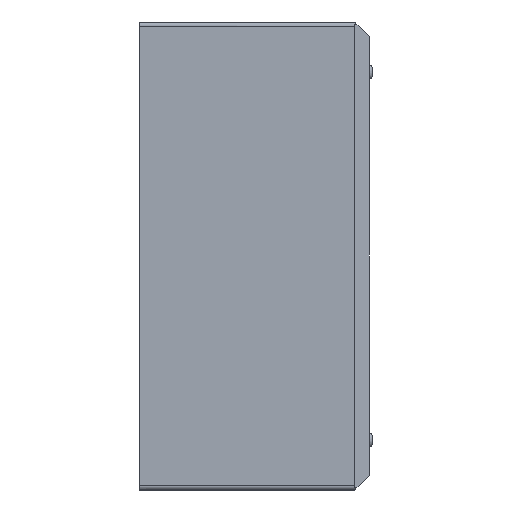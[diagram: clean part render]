
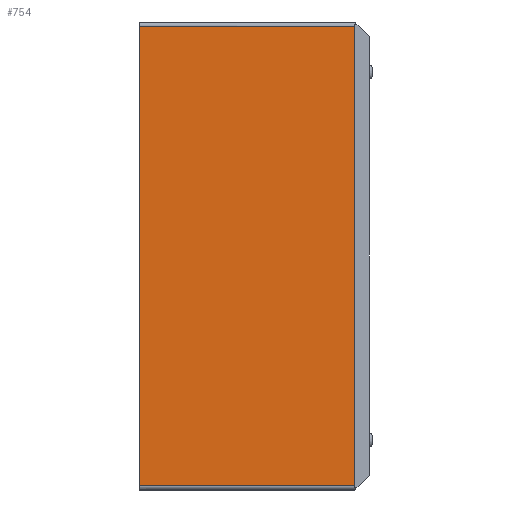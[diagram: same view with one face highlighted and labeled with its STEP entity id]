
A CAD part, left-side view. The second image highlights one B-rep face of the part: STEP entity #754.
In plain terms, the highlighted planar face has unit normal (-1, 0, 0).
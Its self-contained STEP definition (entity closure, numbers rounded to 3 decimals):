
#38 = VERTEX_POINT ( 'NONE', #1318 ) ;
#65 = VECTOR ( 'NONE', #2334, 1000. ) ;
#326 = DIRECTION ( 'NONE',  ( 0., 1., 0. ) ) ;
#478 = ORIENTED_EDGE ( 'NONE', *, *, #1088, .T. ) ;
#557 = FACE_OUTER_BOUND ( 'NONE', #1667, .T. ) ;
#611 = ORIENTED_EDGE ( 'NONE', *, *, #1105, .F. ) ;
#710 = CARTESIAN_POINT ( 'NONE',  ( -100., 0., -56. ) ) ;
#754 = ADVANCED_FACE ( 'NONE', ( #557 ), #2369, .T. ) ;
#826 = VECTOR ( 'NONE', #2121, 1000. ) ;
#1088 = EDGE_CURVE ( 'NONE', #2699, #2704, #3088, .T. ) ;
#1105 = EDGE_CURVE ( 'NONE', #2699, #2465, #2999, .T. ) ;
#1115 = EDGE_CURVE ( 'NONE', #38, #2465, #2148, .T. ) ;
#1169 = CARTESIAN_POINT ( 'NONE',  ( -100., -55., 55. ) ) ;
#1181 = CARTESIAN_POINT ( 'NONE',  ( -100., -55., -55. ) ) ;
#1318 = CARTESIAN_POINT ( 'NONE',  ( -100., -51.5, 55. ) ) ;
#1484 = VECTOR ( 'NONE', #326, 1000. ) ;
#1667 = EDGE_LOOP ( 'NONE', ( #611, #478, #2399, #3147 ) ) ;
#1691 = CARTESIAN_POINT ( 'NONE',  ( -100., -51.5, -55. ) ) ;
#1705 = LINE ( 'NONE', #1817, #3233 ) ;
#1817 = CARTESIAN_POINT ( 'NONE',  ( -100., -51.5, 56. ) ) ;
#2121 = DIRECTION ( 'NONE',  ( 0., 0., 1. ) ) ;
#2148 = LINE ( 'NONE', #1169, #1484 ) ;
#2334 = DIRECTION ( 'NONE',  ( 0., -1., 0. ) ) ;
#2369 = PLANE ( 'NONE',  #2852 ) ;
#2399 = ORIENTED_EDGE ( 'NONE', *, *, #3665, .T. ) ;
#2409 = CARTESIAN_POINT ( 'NONE',  ( -100., -55., -56. ) ) ;
#2416 = DIRECTION ( 'NONE',  ( 0., 0., 1. ) ) ;
#2465 = VERTEX_POINT ( 'NONE', #3663 ) ;
#2699 = VERTEX_POINT ( 'NONE', #3383 ) ;
#2704 = VERTEX_POINT ( 'NONE', #1691 ) ;
#2852 = AXIS2_PLACEMENT_3D ( 'NONE', #2409, #3438, #3214 ) ;
#2999 = LINE ( 'NONE', #710, #826 ) ;
#3088 = LINE ( 'NONE', #1181, #65 ) ;
#3147 = ORIENTED_EDGE ( 'NONE', *, *, #1115, .T. ) ;
#3214 = DIRECTION ( 'NONE',  ( 0., 0., 1. ) ) ;
#3233 = VECTOR ( 'NONE', #2416, 1000. ) ;
#3383 = CARTESIAN_POINT ( 'NONE',  ( -100., 0., -55. ) ) ;
#3438 = DIRECTION ( 'NONE',  ( -1., 0., 0. ) ) ;
#3663 = CARTESIAN_POINT ( 'NONE',  ( -100., 0., 55. ) ) ;
#3665 = EDGE_CURVE ( 'NONE', #2704, #38, #1705, .T. ) ;
